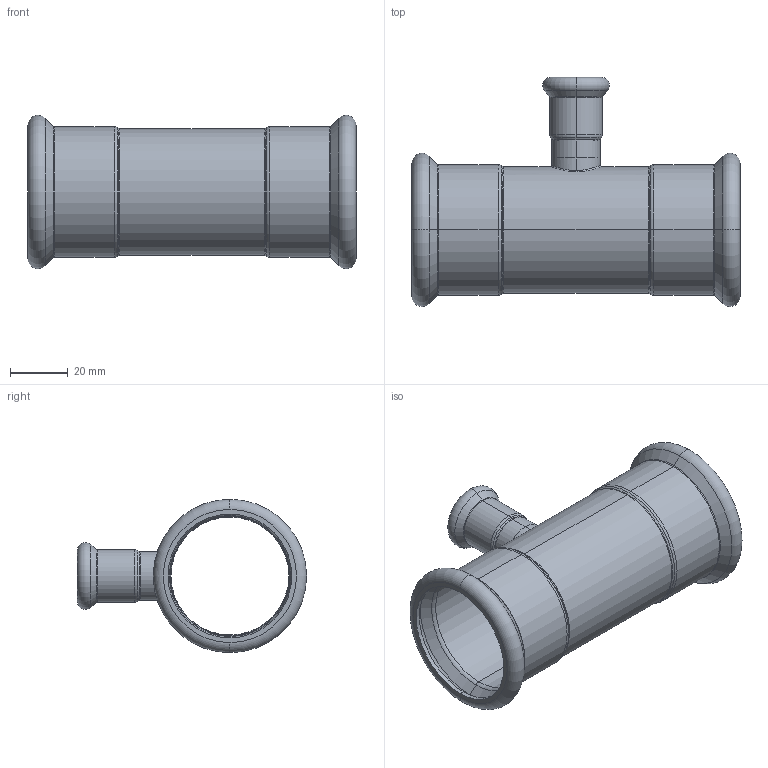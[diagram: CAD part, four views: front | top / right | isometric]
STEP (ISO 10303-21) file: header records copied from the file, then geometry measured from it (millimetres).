
FILE_DESCRIPTION (( 'STEP AP203' ), '1' );
FILE_NAME ('GDA5201.STEP', '2019-01-12T05:44:42', ( '' ), ( '' ), 'SwSTEP 2.0', 'SolidWorks 2015', '' );
FILE_SCHEMA (( 'CONFIG_CONTROL_DESIGN' ));
Length unit declared in the file: millimetre
Products named in the file (3): GDA5201; T(R)-¢ñ-42¡Á15''; T-ｉ-01-15
Assembly tree (2 placements, depth 2):
  GDA5201
    T(R)-¢ñ-42¡Á15''
    T-ｉ-01-15
Bounding box: 114 x 79.64 x 53.29 mm (x, y, z)
Volume: 27913.1 mm3; surface area: 37853.2 mm2
Topology: 2 solids, 2 shells, 114 faces, 234 edges, 128 vertices
Faces by surface type: torus 48, cylinder 30, cone 24, plane 8, bspline 4
Entity records: 4218 total; most frequent: CARTESIAN_POINT 1428, DIRECTION 620, ORIENTED_EDGE 468, AXIS2_PLACEMENT_3D 283, EDGE_CURVE 234, CIRCLE 168, VERTEX_POINT 128, EDGE_LOOP 124
